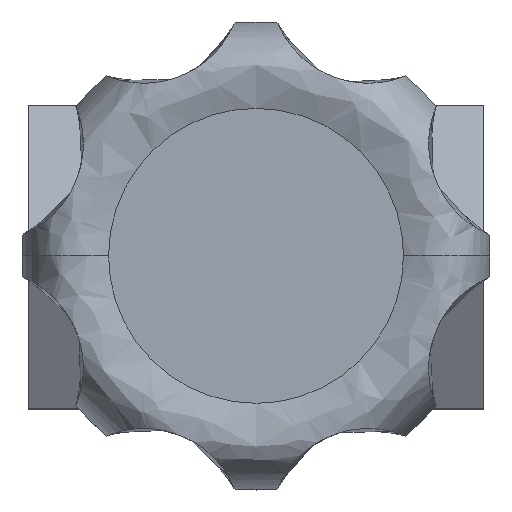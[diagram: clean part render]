
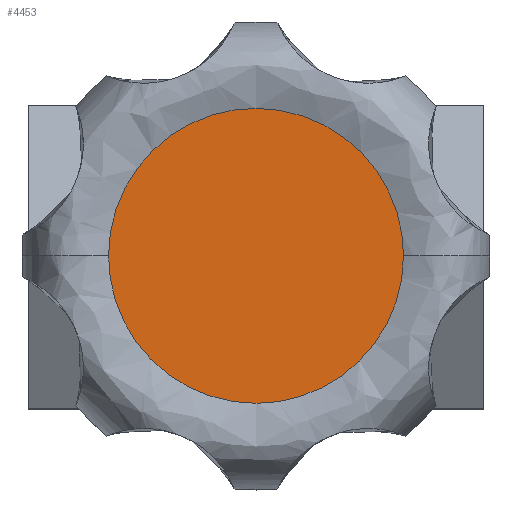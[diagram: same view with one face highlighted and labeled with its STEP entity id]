
A CAD part, top view. The second image highlights one B-rep face of the part: STEP entity #4453.
In plain terms, the highlighted free-form (B-spline) face has degree [1, 1] with [2, 2] control points.
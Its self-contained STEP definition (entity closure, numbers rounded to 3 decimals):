
#2658=CARTESIAN_POINT('',(-24.264,0.,121.43));
#2659=VERTEX_POINT('',#2658);
#2668=CARTESIAN_POINT('',(0.,24.264,121.43));
#2669=VERTEX_POINT('',#2668);
#2670=CARTESIAN_POINT('',(-24.264,0.,121.43));
#2671=CARTESIAN_POINT('',(-24.264,1.687,121.43));
#2672=CARTESIAN_POINT('',(-23.989,4.318,121.43));
#2673=CARTESIAN_POINT('',(-23.018,7.866,121.43));
#2674=CARTESIAN_POINT('',(-21.923,10.534,121.43));
#2675=CARTESIAN_POINT('',(-20.299,13.442,121.43));
#2676=CARTESIAN_POINT('',(-18.55,15.741,121.43));
#2677=CARTESIAN_POINT('',(-16.33,18.016,121.43));
#2678=CARTESIAN_POINT('',(-13.984,19.941,121.43));
#2679=CARTESIAN_POINT('',(-11.161,21.622,121.43));
#2680=CARTESIAN_POINT('',(-8.333,22.844,121.43));
#2681=CARTESIAN_POINT('',(-4.764,23.927,121.43));
#2682=CARTESIAN_POINT('',(-1.886,24.265,121.43));
#2683=CARTESIAN_POINT('',(0.,24.264,121.43));
#2684=B_SPLINE_CURVE_WITH_KNOTS('',3,(#2670,#2671,#2672,#2673,#2674,#2675,#2676,#2677,#2678,#2679,#2680,#2681,#2682,#2683),.UNSPECIFIED.,.F.,.U.,(4,1,1,1,1,1,1,1,1,1,1,4),(0.,5.062,7.891,11.017,13.697,17.866,19.653,23.226,26.948,29.479,32.457,38.114),.UNSPECIFIED.);
#2685=EDGE_CURVE('',#2659,#2669,#2684,.T.);
#2687=CARTESIAN_POINT('',(24.264,0.,121.43));
#2688=VERTEX_POINT('',#2687);
#2689=CARTESIAN_POINT('',(0.,24.264,121.43));
#2690=CARTESIAN_POINT('',(1.191,24.264,121.43));
#2691=CARTESIAN_POINT('',(3.821,24.07,121.43));
#2692=CARTESIAN_POINT('',(7.406,23.207,121.43));
#2693=CARTESIAN_POINT('',(10.534,21.923,121.43));
#2694=CARTESIAN_POINT('',(13.095,20.493,121.43));
#2695=CARTESIAN_POINT('',(15.795,18.542,121.43));
#2696=CARTESIAN_POINT('',(18.425,15.959,121.43));
#2697=CARTESIAN_POINT('',(20.709,12.819,121.43));
#2698=CARTESIAN_POINT('',(22.245,9.86,121.43));
#2699=CARTESIAN_POINT('',(23.301,6.964,121.43));
#2700=CARTESIAN_POINT('',(24.059,3.772,121.43));
#2701=CARTESIAN_POINT('',(24.264,1.39,121.43));
#2702=CARTESIAN_POINT('',(24.264,0.,121.43));
#2703=B_SPLINE_CURVE_WITH_KNOTS('',3,(#2689,#2690,#2691,#2692,#2693,#2694,#2695,#2696,#2697,#2698,#2699,#2700,#2701,#2702),.UNSPECIFIED.,.F.,.U.,(4,1,1,1,1,1,1,1,1,1,1,4),(0.,3.573,7.891,11.017,13.697,16.675,20.993,24.715,28.288,30.968,33.945,38.114),.UNSPECIFIED.);
#2704=EDGE_CURVE('',#2669,#2688,#2703,.T.);
#3677=CARTESIAN_POINT('',(0.,-24.264,121.43));
#3678=VERTEX_POINT('',#3677);
#3679=CARTESIAN_POINT('',(24.264,0.,121.43));
#3680=CARTESIAN_POINT('',(24.265,-2.035,121.43));
#3681=CARTESIAN_POINT('',(23.8,-5.707,121.43));
#3682=CARTESIAN_POINT('',(22.127,-10.247,121.43));
#3683=CARTESIAN_POINT('',(20.159,-13.649,121.43));
#3684=CARTESIAN_POINT('',(18.253,-16.075,121.43));
#3685=CARTESIAN_POINT('',(16.005,-18.324,121.43));
#3686=CARTESIAN_POINT('',(13.606,-20.184,121.43));
#3687=CARTESIAN_POINT('',(10.933,-21.72,121.43));
#3688=CARTESIAN_POINT('',(8.333,-22.844,121.43));
#3689=CARTESIAN_POINT('',(4.764,-23.927,121.43));
#3690=CARTESIAN_POINT('',(1.886,-24.265,121.43));
#3691=CARTESIAN_POINT('',(0.,-24.264,121.43));
#3692=B_SPLINE_CURVE_WITH_KNOTS('',3,(#3679,#3680,#3681,#3682,#3683,#3684,#3685,#3686,#3687,#3688,#3689,#3690,#3691),.UNSPECIFIED.,.F.,.U.,(4,1,1,1,1,1,1,1,1,1,4),(0.,6.104,11.017,14.442,17.866,20.248,23.97,26.948,29.479,32.457,38.114),.UNSPECIFIED.);
#3693=EDGE_CURVE('',#2688,#3678,#3692,.T.);
#3695=CARTESIAN_POINT('',(0.,-24.264,121.43));
#3696=CARTESIAN_POINT('',(-1.588,-24.264,121.43));
#3697=CARTESIAN_POINT('',(-4.218,-24.005,121.43));
#3698=CARTESIAN_POINT('',(-8.014,-22.992,121.43));
#3699=CARTESIAN_POINT('',(-10.897,-21.756,121.43));
#3700=CARTESIAN_POINT('',(-13.806,-20.037,121.43));
#3701=CARTESIAN_POINT('',(-16.239,-18.138,121.43));
#3702=CARTESIAN_POINT('',(-18.862,-15.417,121.43));
#3703=CARTESIAN_POINT('',(-20.87,-12.565,121.43));
#3704=CARTESIAN_POINT('',(-22.593,-9.09,121.43));
#3705=CARTESIAN_POINT('',(-23.896,-5.062,121.43));
#3706=CARTESIAN_POINT('',(-24.265,-1.836,121.43));
#3707=CARTESIAN_POINT('',(-24.264,0.,121.43));
#3708=B_SPLINE_CURVE_WITH_KNOTS('',3,(#3695,#3696,#3697,#3698,#3699,#3700,#3701,#3702,#3703,#3704,#3705,#3706,#3707),.UNSPECIFIED.,.F.,.U.,(4,1,1,1,1,1,1,1,1,1,4),(0.,4.764,7.891,11.762,14.144,18.015,20.993,25.459,28.437,32.606,38.114),.UNSPECIFIED.);
#3709=EDGE_CURVE('',#3678,#2659,#3708,.T.);
#4442=CARTESIAN_POINT('',(-26.688,-26.688,121.43));
#4443=CARTESIAN_POINT('',(26.688,-26.688,121.43));
#4444=CARTESIAN_POINT('',(-26.688,26.688,121.43));
#4445=CARTESIAN_POINT('',(26.688,26.688,121.43));
#4446=B_SPLINE_SURFACE_WITH_KNOTS('',1,1,((#4442,#4444),(#4443,#4445)),.UNSPECIFIED.,.F.,.F.,.U.,(2,2),(2,2),(0.,53.376),(0.,53.376),.UNSPECIFIED.);
#4447=ORIENTED_EDGE('',*,*,#3709,.F.);
#4448=ORIENTED_EDGE('',*,*,#3693,.F.);
#4449=ORIENTED_EDGE('',*,*,#2704,.F.);
#4450=ORIENTED_EDGE('',*,*,#2685,.F.);
#4451=EDGE_LOOP('',(#4447,#4448,#4449,#4450));
#4452=FACE_OUTER_BOUND('',#4451,.T.);
#4453=ADVANCED_FACE('',(#4452),#4446,.T.);
